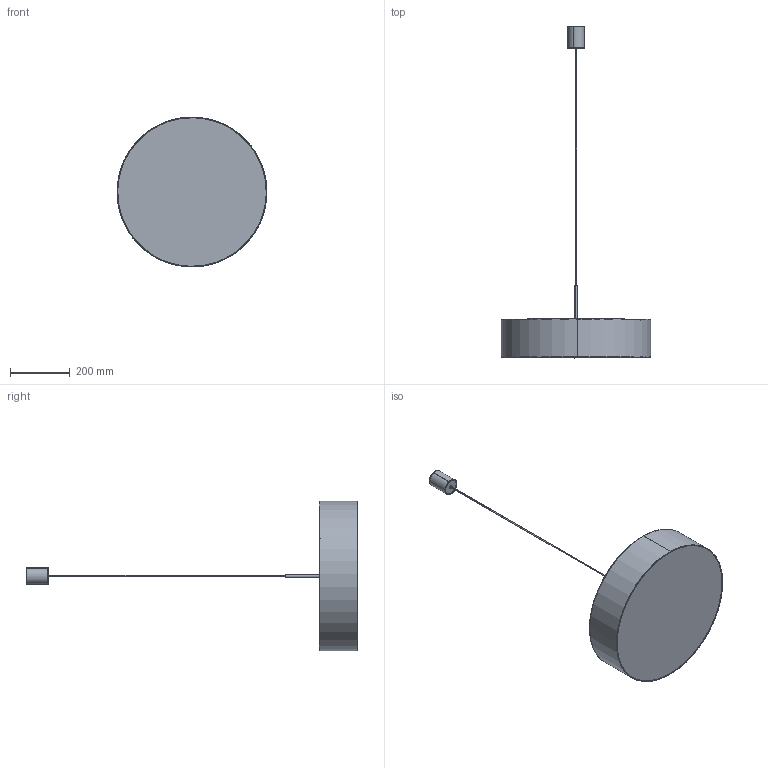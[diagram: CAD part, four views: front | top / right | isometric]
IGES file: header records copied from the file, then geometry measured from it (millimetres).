
Start section: SolidWorks IGES file using analytic representation for surfaces
Global section: file name: Z:\Modele 3D_WWW\_KOLEKCJE_WWW\TURDA\TURDA-8945-8946\TURDA-8945-8946.IGS; native system: SolidWorks 2020; preprocessor: SolidWorks 2020; author: gabriela.tworek; date: 210510.084922; units: millimetre
Bounding box: 502.05 x 1112.71 x 502.05 mm (x, y, z)
Surface area: 796407.7 mm2 (no closed solid volume)
Topology: 0 solids, 0 shells, 313 faces, 5149 edges, 5089 vertices
Faces by surface type: revolution 161, bspline 152
